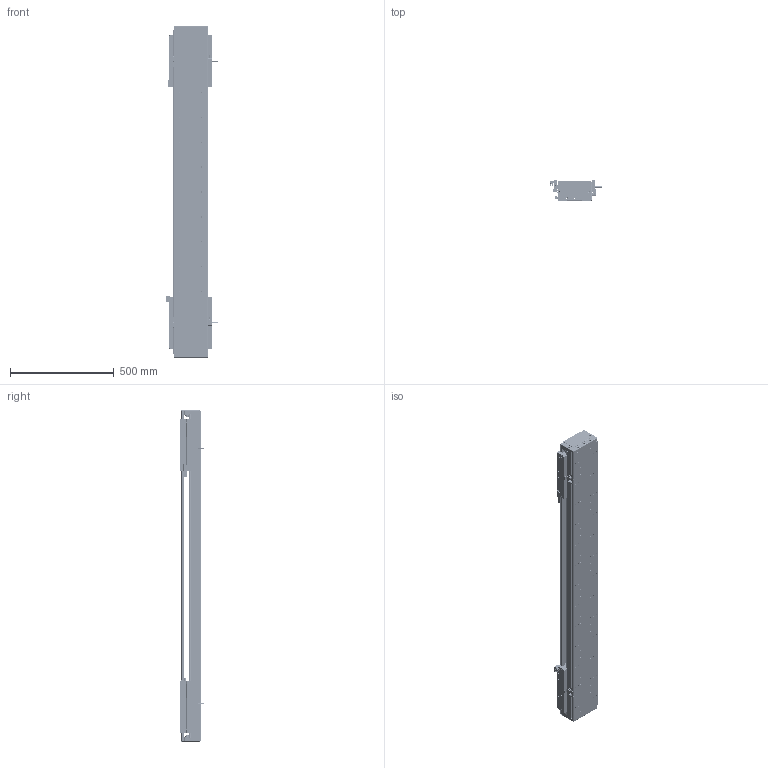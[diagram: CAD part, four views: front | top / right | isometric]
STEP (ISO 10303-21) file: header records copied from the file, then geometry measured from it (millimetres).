
FILE_DESCRIPTION (( 'STEP AP203' ), '1' );
FILE_NAME ('DA-C165-2-C3-T980-C010-0.2 直线电机.STEP', '2023-06-13T09:28:19', ( '微软用户' ), ( '微软中国' ), 'SwSTEP 2.0', 'SolidWorks 2019', '' );
FILE_SCHEMA (( 'CONFIG_CONTROL_DESIGN' ));
Length unit declared in the file: millimetre
Products named in the file (19): 复件 DA95-HXJ-00 缓冲橡胶^DA-C165-C3-T-C010-0.2-N 直线电机; 复件 66338-1000-006-00 光电感应块^DA-C165-C3-T-C010-0.2-N 直线电机; 复件 DA126-GYP-ZJ-00 中间光电感应片^DA-C165-C3-T-C010-0.2-N 直线电机; DA-C165-2-C3-T980-C010-0.2 眻盄萇儂; 复件 DA165-GYP-00 光电感应片^DA-C165-C3-T-C010-0.2-N 直线电机; 珨极趙賑雄怢啣C3-wf; 复件 XD-U-02L 磁栅尺^DA-C165-C3-T-C010-0.2-N 直线电机_T; 复件 DA165-DG-H-N-00 端盖^DA-C165-C3-T-C010-0.2-N 直线电机; 复件 CU165 底座^IU-CU165-L 底座导轨_L1560; 葩璃 CKM03-W075-C1C2-TP-3.0^DA-C165-C3-T-C010-0.2-N 眻盄萇儂; 葩璃 PM-T45^DA-C165-C3-T-C010-0.2-N 眻盄萇儂; 复件 六角薄螺母 M3^DA-C165-C3-T-C010-0.2-N 直线电机_GB_FASTENER_NUT_STNAB M3-C; IU-CU165-L 菁釱絳寢; 葩璃 PM-Y45^DA-C165-C3-T-C010-0.2-N 眻盄萇儂; 葩璃 CKM01-W075-TRL^DA-C165-C3-T-C010-0.2-N 眻盄萇儂; 复件 DKW-HXJ-JY-00 缓冲橡胶^DA-C165-C3-T-C010-0.2-N 直线电机; 葩璃 DA95-GT-T-00^IU-CU165-L 菁釱絳寢_T; 复件 DA165-T-002-00 盖板^DA-C165-C3-T-C010-0.2-N 直线电机_0840-002-00; 复件 DMA-010-0.2 读数头^DA-C165-C3-T-C010-0.2-N 直线电机
Assembly tree (40 placements, depth 3):
  DA-C165-2-C3-T980-C010-0.2 眻盄萇儂
    IU-CU165-L 菁釱絳寢
      复件 CU165 底座^IU-CU165-L 底座导轨_L1560
      葩璃 DA95-GT-T-00^IU-CU165-L 菁釱絳寢_T  x4
    复件 DA165-DG-H-N-00 端盖^DA-C165-C3-T-C010-0.2-N 直线电机  x2
    复件 DA95-HXJ-00 缓冲橡胶^DA-C165-C3-T-C010-0.2-N 直线电机  x4
    复件 DA165-T-002-00 盖板^DA-C165-C3-T-C010-0.2-N 直线电机_0840-002-00
    复件 XD-U-02L 磁栅尺^DA-C165-C3-T-C010-0.2-N 直线电机_T
    葩璃 PM-T45^DA-C165-C3-T-C010-0.2-N 眻盄萇儂  x4
    葩璃 CKM01-W075-TRL^DA-C165-C3-T-C010-0.2-N 眻盄萇儂
    复件 DMA-010-0.2 读数头^DA-C165-C3-T-C010-0.2-N 直线电机  x2
    复件 DA165-GYP-00 光电感应片^DA-C165-C3-T-C010-0.2-N 直线电机  x2
    复件 66338-1000-006-00 光电感应块^DA-C165-C3-T-C010-0.2-N 直线电机
    葩璃 PM-Y45^DA-C165-C3-T-C010-0.2-N 眻盄萇儂
    复件 DA126-GYP-ZJ-00 中间光电感应片^DA-C165-C3-T-C010-0.2-N 直线电机
    葩璃 CKM03-W075-C1C2-TP-3.0^DA-C165-C3-T-C010-0.2-N 眻盄萇儂  x2
    复件 DKW-HXJ-JY-00 缓冲橡胶^DA-C165-C3-T-C010-0.2-N 直线电机  x2
    复件 六角薄螺母 M3^DA-C165-C3-T-C010-0.2-N 直线电机_GB_FASTENER_NUT_STNAB M3-C  x8
    珨极趙賑雄怢啣C3-wf  x2
Bounding box: 247.2 x 111.45 x 1600 mm (x, y, z)
Volume: 13393142.9 mm3; surface area: 3495790.9 mm2
Topology: 117 solids, 217 shells, 6014 faces, 15899 edges, 9796 vertices
Faces by surface type: cylinder 2968, plane 1994, cone 956, torus 88, sphere 8
Entity records: 122772 total; most frequent: CARTESIAN_POINT 30132, DIRECTION 18983, ORIENTED_EDGE 18684, EDGE_CURVE 9342, AXIS2_PLACEMENT_3D 7173, VERTEX_POINT 6050, VECTOR 4637, LINE 4637
